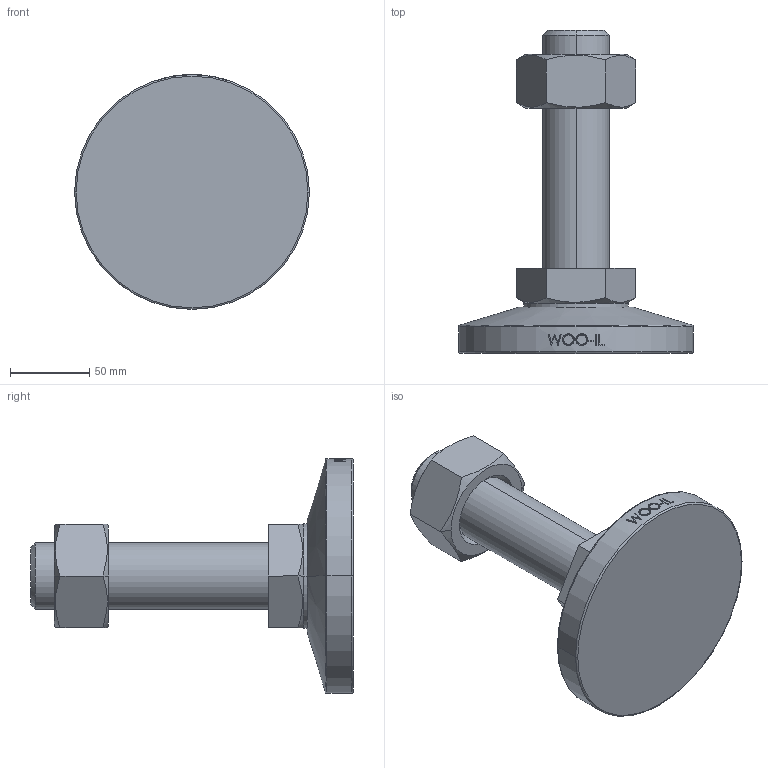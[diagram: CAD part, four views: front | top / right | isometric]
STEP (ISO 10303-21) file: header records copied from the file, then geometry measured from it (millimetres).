
FILE_DESCRIPTION (( 'STEP AP214' ), '1' );
FILE_NAME ('MFB148-M42-150.step', '2022-06-27T08:35:01', ( '' ), ( '' ), 'SwSTEP 2.0', 'SolidWorks 2019', '' );
FILE_SCHEMA (( 'AUTOMOTIVE_DESIGN' ));
Length unit declared in the file: millimetre
Products named in the file (1): MFB148-M42-150
Bounding box: 148 x 203.5 x 148 mm (x, y, z)
Volume: 785258.1 mm3; surface area: 90654.1 mm2
Topology: 3 solids, 3 shells, 97 faces, 225 edges, 144 vertices
Faces by surface type: plane 47, cylinder 16, bspline 16, cone 14, torus 4
Entity records: 4311 total; most frequent: CARTESIAN_POINT 2181, ORIENTED_EDGE 450, DIRECTION 385, EDGE_CURVE 225, VERTEX_POINT 144, AXIS2_PLACEMENT_3D 144, EDGE_LOOP 109, ADVANCED_FACE 97
